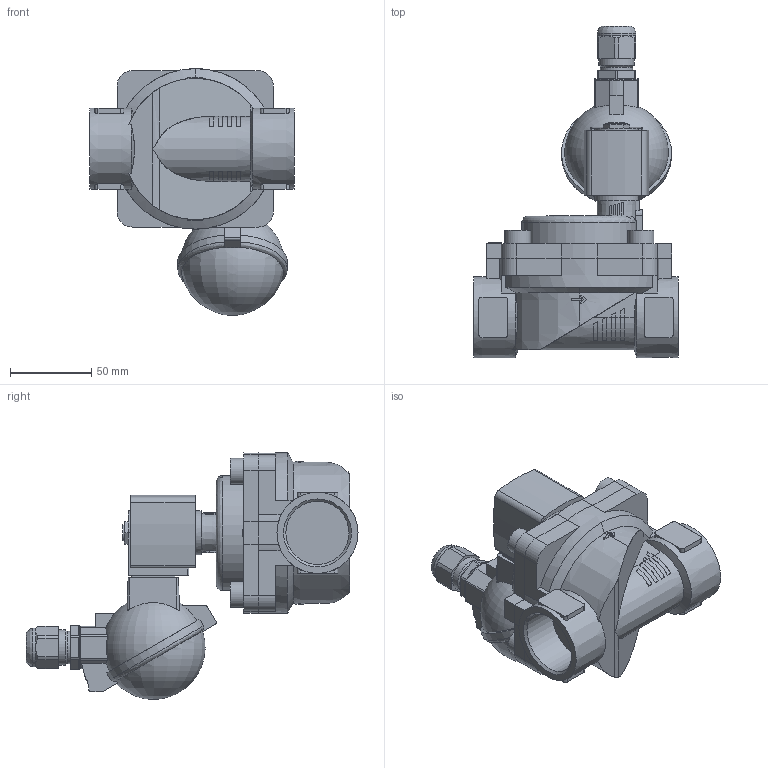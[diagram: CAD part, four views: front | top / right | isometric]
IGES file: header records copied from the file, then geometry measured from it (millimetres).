
Start section: Data from Parasolid IGES Translator 26.0.171, Copyright(c) 2006 Siemens PLM Software. All Rights Reserved.
Global section: file name: 6281-380496-2_2-Way_Solenoid_Valve__Servo-assisted__General_Purpose.igs; native system: By Siemens PLM Incorporated; preprocessor: XPlus GENERIC/IGES 26.0.171; author: Noname; organization: Noname; date: 20240904.152014; units: millimetre
Bounding box: 126 x 204.8 x 152.2 mm (x, y, z)
Surface area: 110185.7 mm2 (no closed solid volume)
Topology: 0 solids, 0 shells, 416 faces, 2235 edges, 2202 vertices
Faces by surface type: extrusion 244, revolution 172
